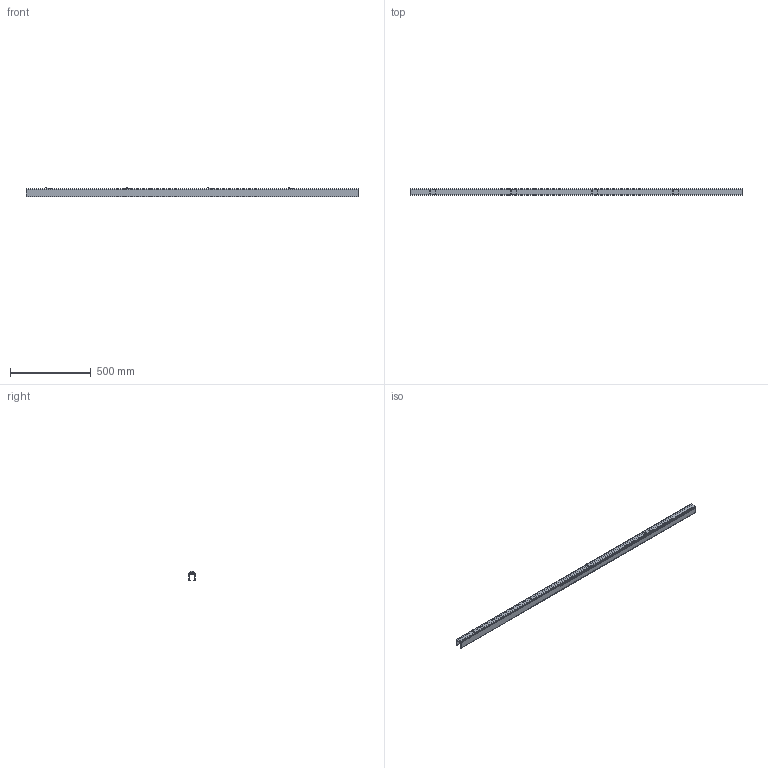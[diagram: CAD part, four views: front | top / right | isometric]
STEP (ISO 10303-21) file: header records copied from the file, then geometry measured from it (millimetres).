
FILE_DESCRIPTION(('STEP AP242'),'1');
FILE_NAME('OPO_65.083.21.stp','2026-03-17T13:41:28',(' '),(' '),'Spatial InterOp 3D',' ',' ');
FILE_SCHEMA(('AP242_MANAGED_MODEL_BASED_3D_ENGINEERING_MIM_LF {1 0 10303 442 1 1 4}'));
Length unit declared in the file: millimetre
Products named in the file (1): 1
Bounding box: 2050 x 42 x 57.5 mm (x, y, z)
Volume: 1005091 mm3; surface area: 714980.9 mm2
Topology: 1 solids, 1 shells, 160 faces, 440 edges, 290 vertices
Faces by surface type: plane 140, cylinder 20
Entity records: 6300 total; most frequent: CARTESIAN_POINT 891, ORIENTED_EDGE 880, DIRECTION 802, EDGE_CURVE 440, LINE 400, VECTOR 400, VERTEX_POINT 290, AXIS2_PLACEMENT_3D 201
